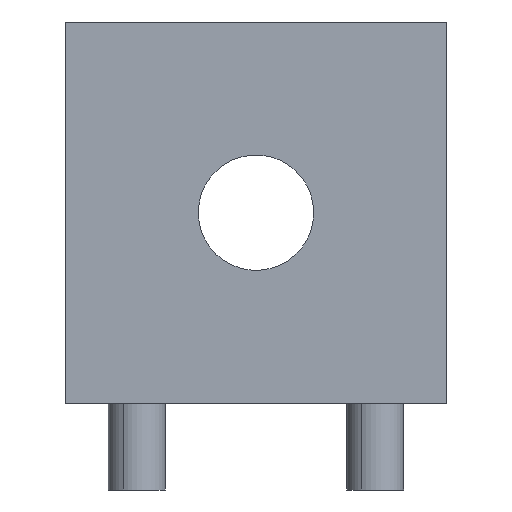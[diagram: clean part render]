
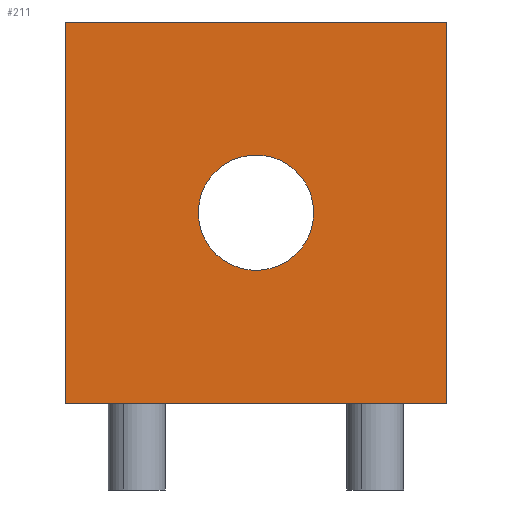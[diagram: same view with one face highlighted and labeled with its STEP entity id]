
A CAD part, front view. The second image highlights one B-rep face of the part: STEP entity #211.
In plain terms, the highlighted planar face has unit normal (0, -1, 0).
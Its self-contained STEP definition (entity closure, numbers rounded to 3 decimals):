
#211=ADVANCED_FACE('Pad.2',(#479,#480),#481,.F.);
#479=FACE_OUTER_BOUND('',#839,.T.);
#480=FACE_BOUND('',#840,.T.);
#481=PLANE('',#841);
#839=EDGE_LOOP('',(#1299,#1300,#1301,#1302));
#840=EDGE_LOOP('',(#1303,#1304,#1305,#1306));
#841=AXIS2_PLACEMENT_3D('',#1307,#1308,#1309);
#1299=ORIENTED_EDGE('',*,*,#2120,.F.);
#1300=ORIENTED_EDGE('',*,*,#2131,.F.);
#1301=ORIENTED_EDGE('',*,*,#2132,.F.);
#1302=ORIENTED_EDGE('',*,*,#2111,.F.);
#1303=ORIENTED_EDGE('',*,*,#2017,.T.);
#1304=ORIENTED_EDGE('',*,*,#2133,.T.);
#1305=ORIENTED_EDGE('',*,*,#2134,.T.);
#1306=ORIENTED_EDGE('',*,*,#2023,.T.);
#1307=CARTESIAN_POINT('',(0.0,-57.0,0.0));
#1308=DIRECTION('',(0.0,1.0,0.0));
#1309=DIRECTION('',(0.0,0.0,1.0));
#2017=EDGE_CURVE('',#2378,#2375,#2379,.T.);
#2023=EDGE_CURVE('',#2385,#2378,#2388,.T.);
#2111=EDGE_CURVE('',#2533,#2536,#2537,.T.);
#2120=EDGE_CURVE('',#2551,#2533,#2553,.F.);
#2131=EDGE_CURVE('',#2568,#2551,#2569,.F.);
#2132=EDGE_CURVE('',#2536,#2568,#2570,.T.);
#2133=EDGE_CURVE('',#2375,#2571,#2572,.T.);
#2134=EDGE_CURVE('',#2571,#2385,#2573,.T.);
#2375=VERTEX_POINT('',#2902);
#2378=VERTEX_POINT('',#2906);
#2379=CIRCLE('',#2907,6.05);
#2385=VERTEX_POINT('',#2914);
#2388=CIRCLE('',#2918,6.05);
#2533=VERTEX_POINT('',#3109);
#2536=VERTEX_POINT('',#3113);
#2537=LINE('',#3114,#3115);
#2551=VERTEX_POINT('',#3134);
#2553=LINE('',#3137,#3138);
#2568=VERTEX_POINT('',#3154);
#2569=LINE('',#3155,#3156);
#2570=LINE('',#3157,#3158);
#2571=VERTEX_POINT('',#3159);
#2572=CIRCLE('',#3160,6.05);
#2573=CIRCLE('',#3161,6.05);
#2902=CARTESIAN_POINT('',(6.05,-57.0,0.));
#2906=CARTESIAN_POINT('',(-5.309,-57.0,2.901));
#2907=AXIS2_PLACEMENT_3D('',#3565,#3566,#3567);
#2914=CARTESIAN_POINT('',(-6.05,-57.0,0.));
#2918=AXIS2_PLACEMENT_3D('',#3576,#3577,#3578);
#3109=CARTESIAN_POINT('',(-20.0,-57.0,-20.0));
#3113=CARTESIAN_POINT('',(-20.0,-57.0,20.0));
#3114=CARTESIAN_POINT('',(-20.0,-57.0,0.0));
#3115=VECTOR('',#3720,1.0);
#3134=CARTESIAN_POINT('',(20.0,-57.0,-20.0));
#3137=CARTESIAN_POINT('',(0.0,-57.0,-20.0));
#3138=VECTOR('',#3730,1.0);
#3154=CARTESIAN_POINT('',(20.0,-57.0,20.0));
#3155=CARTESIAN_POINT('',(20.0,-57.0,0.0));
#3156=VECTOR('',#3756,1.0);
#3157=CARTESIAN_POINT('',(0.0,-57.0,20.0));
#3158=VECTOR('',#3757,1.0);
#3159=CARTESIAN_POINT('',(5.309,-57.0,-2.901));
#3160=AXIS2_PLACEMENT_3D('',#3758,#3759,#3760);
#3161=AXIS2_PLACEMENT_3D('',#3761,#3762,#3763);
#3565=CARTESIAN_POINT('',(0.,-57.0,0.));
#3566=DIRECTION('',(0.0,1.0,0.0));
#3567=DIRECTION('',(0.0,0.0,1.0));
#3576=CARTESIAN_POINT('',(0.,-57.0,0.));
#3577=DIRECTION('',(0.0,1.0,0.0));
#3578=DIRECTION('',(0.0,0.0,1.0));
#3720=DIRECTION('',(0.0,0.0,1.0));
#3730=DIRECTION('',(1.0,0.0,0.0));
#3756=DIRECTION('',(0.0,0.0,1.0));
#3757=DIRECTION('',(1.0,0.0,0.0));
#3758=CARTESIAN_POINT('',(0.,-57.0,0.));
#3759=DIRECTION('',(0.0,1.0,0.0));
#3760=DIRECTION('',(0.0,0.0,1.0));
#3761=CARTESIAN_POINT('',(0.,-57.0,0.));
#3762=DIRECTION('',(0.0,1.0,0.0));
#3763=DIRECTION('',(0.0,0.0,1.0));
